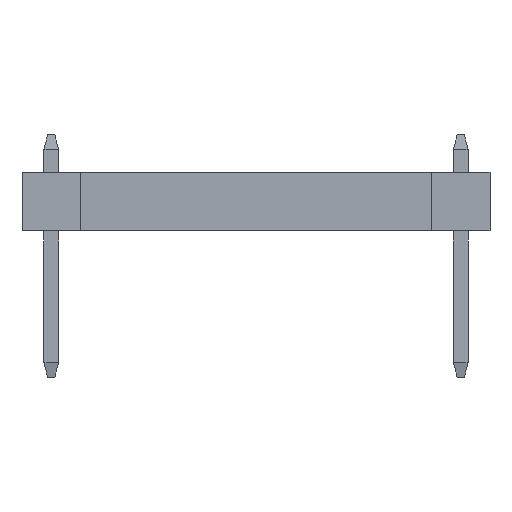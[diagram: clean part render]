
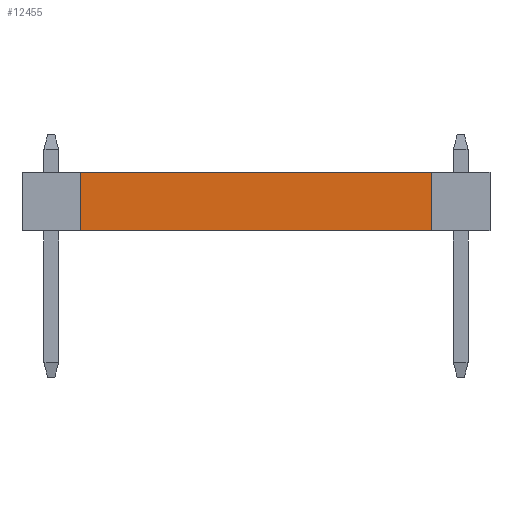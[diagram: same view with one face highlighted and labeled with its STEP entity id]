
A CAD part, front view. The second image highlights one B-rep face of the part: STEP entity #12455.
In plain terms, the highlighted planar face has unit normal (0, -1, 0).
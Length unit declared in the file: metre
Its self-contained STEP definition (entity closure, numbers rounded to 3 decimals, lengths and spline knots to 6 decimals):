
#3118=ORIENTED_EDGE('',*,*,#4987,.T.);
#3119=ORIENTED_EDGE('',*,*,#4639,.F.);
#3120=ORIENTED_EDGE('',*,*,#4984,.F.);
#3121=ORIENTED_EDGE('',*,*,#4988,.F.);
#4639=EDGE_CURVE('',#5823,#5824,#7299,.T.);
#4984=EDGE_CURVE('',#5999,#5823,#7644,.T.);
#4987=EDGE_CURVE('',#6001,#5824,#7647,.T.);
#4988=EDGE_CURVE('',#6001,#5999,#7648,.T.);
#5823=VERTEX_POINT('',#19155);
#5824=VERTEX_POINT('',#19157);
#5999=VERTEX_POINT('',#19846);
#6001=VERTEX_POINT('',#19854);
#7299=LINE('',#19156,#8959);
#7644=LINE('',#19847,#9304);
#7647=LINE('',#19853,#9307);
#7648=LINE('',#19855,#9308);
#8959=VECTOR('',#15757,1.);
#9304=VECTOR('',#16442,1.);
#9307=VECTOR('',#16449,1.);
#9308=VECTOR('',#16450,1.);
#10103=EDGE_LOOP('',(#3118,#3119,#3120,#3121));
#10929=FACE_BOUND('',#10103,.T.);
#11713=PLANE('',#13343);
#12455=ADVANCED_FACE('',(#10929),#11713,.T.);
#13343=AXIS2_PLACEMENT_3D('',#19852,#16447,#16448);
#15757=DIRECTION('',(1.,0.,0.));
#16442=DIRECTION('',(0.,0.,1.));
#16447=DIRECTION('',(0.,-1.,0.));
#16448=DIRECTION('',(-1.,0.,0.));
#16449=DIRECTION('',(0.,0.,1.));
#16450=DIRECTION('',(-1.,0.,0.));
#19155=CARTESIAN_POINT('',(0.13349,-0.128754,0.004135));
#19156=CARTESIAN_POINT('',(0.13349,-0.128754,0.004135));
#19157=CARTESIAN_POINT('',(0.14873,-0.128754,0.004135));
#19846=CARTESIAN_POINT('',(0.13349,-0.128754,0.001595));
#19847=CARTESIAN_POINT('',(0.13349,-0.128754,0.001595));
#19852=CARTESIAN_POINT('',(0.14111,-0.128754,0.002865));
#19853=CARTESIAN_POINT('',(0.14873,-0.128754,0.001595));
#19854=CARTESIAN_POINT('',(0.14873,-0.128754,0.001595));
#19855=CARTESIAN_POINT('',(0.14873,-0.128754,0.001595));
